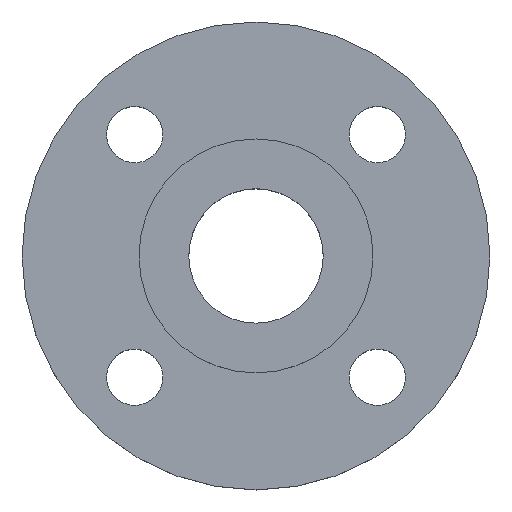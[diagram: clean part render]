
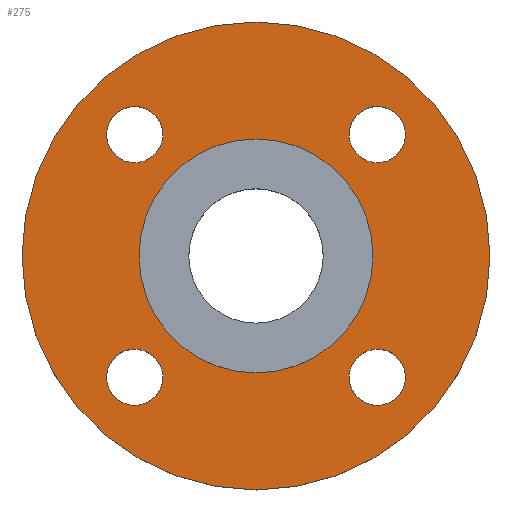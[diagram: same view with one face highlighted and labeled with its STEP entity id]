
A CAD part, top view. The second image highlights one B-rep face of the part: STEP entity #275.
In plain terms, the highlighted planar face has unit normal (0, 0, 1).
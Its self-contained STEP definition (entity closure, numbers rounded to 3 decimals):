
#2 = CIRCLE ( 'NONE', #4, 9. ) ;
#4 = AXIS2_PLACEMENT_3D ( 'NONE', #355, #268, #269 ) ;
#27 = AXIS2_PLACEMENT_3D ( 'NONE', #150, #149, #148 ) ;
#29 = AXIS2_PLACEMENT_3D ( 'NONE', #233, #210, #230 ) ;
#43 = CIRCLE ( 'NONE', #350, 9. ) ;
#46 = CIRCLE ( 'NONE', #47, 75. ) ;
#47 = AXIS2_PLACEMENT_3D ( 'NONE', #77, #78, #72 ) ;
#64 = CARTESIAN_POINT ( 'NONE',  ( 29.891, 38.891, -4.5 ) ) ;
#72 = DIRECTION ( 'NONE',  ( -1., 0., 0. ) ) ;
#77 = CARTESIAN_POINT ( 'NONE',  ( 0., 0., -4.5 ) ) ;
#78 = DIRECTION ( 'NONE',  ( 0., 0., -1. ) ) ;
#89 = DIRECTION ( 'NONE',  ( 1., 0., 0. ) ) ;
#90 = DIRECTION ( 'NONE',  ( 0., 0., -1. ) ) ;
#91 = CARTESIAN_POINT ( 'NONE',  ( 38.891, 38.891, -4.5 ) ) ;
#93 = CARTESIAN_POINT ( 'NONE',  ( -37.5, 0., -4.5 ) ) ;
#94 = CARTESIAN_POINT ( 'NONE',  ( -29.891, 38.891, -4.5 ) ) ;
#104 = CIRCLE ( 'NONE', #114, 37.5 ) ;
#114 = AXIS2_PLACEMENT_3D ( 'NONE', #774, #776, #777 ) ;
#148 = DIRECTION ( 'NONE',  ( 1., 0., 0. ) ) ;
#149 = DIRECTION ( 'NONE',  ( 0., 0., -1. ) ) ;
#150 = CARTESIAN_POINT ( 'NONE',  ( -38.891, 38.891, -4.5 ) ) ;
#151 = CARTESIAN_POINT ( 'NONE',  ( 47.891, -38.891, -4.5 ) ) ;
#167 = AXIS2_PLACEMENT_3D ( 'NONE', #760, #761, #762 ) ;
#176 = AXIS2_PLACEMENT_3D ( 'NONE', #778, #779, #780 ) ;
#188 = EDGE_CURVE ( 'NONE', #427, #444, #533, .T. ) ;
#189 = CARTESIAN_POINT ( 'NONE',  ( 29.891, -38.891, -4.5 ) ) ;
#193 = CARTESIAN_POINT ( 'NONE',  ( -47.891, 38.891, -4.5 ) ) ;
#194 = CARTESIAN_POINT ( 'NONE',  ( 75., 0., -4.5 ) ) ;
#201 = DIRECTION ( 'NONE',  ( 0., 0., -1. ) ) ;
#203 = CARTESIAN_POINT ( 'NONE',  ( -38.891, 38.891, -4.5 ) ) ;
#205 = DIRECTION ( 'NONE',  ( 1., 0., 0. ) ) ;
#210 = DIRECTION ( 'NONE',  ( 0., 0., -1. ) ) ;
#213 = DIRECTION ( 'NONE',  ( 0., 0., -1. ) ) ;
#223 = DIRECTION ( 'NONE',  ( 0., 0., -1. ) ) ;
#224 = CARTESIAN_POINT ( 'NONE',  ( 47.891, 38.891, -4.5 ) ) ;
#225 = CARTESIAN_POINT ( 'NONE',  ( -75., 0., -4.5 ) ) ;
#230 = DIRECTION ( 'NONE',  ( -1., 0., 0. ) ) ;
#233 = CARTESIAN_POINT ( 'NONE',  ( 0., 0., -4.5 ) ) ;
#235 = CARTESIAN_POINT ( 'NONE',  ( 38.891, -38.891, -4.5 ) ) ;
#242 = DIRECTION ( 'NONE',  ( 1., 0., 0. ) ) ;
#245 = CARTESIAN_POINT ( 'NONE',  ( 38.891, -38.891, -4.5 ) ) ;
#247 = CARTESIAN_POINT ( 'NONE',  ( -47.891, -38.891, -4.5 ) ) ;
#251 = CARTESIAN_POINT ( 'NONE',  ( 37.5, 0., -4.5 ) ) ;
#257 = CIRCLE ( 'NONE', #176, 9. ) ;
#259 = CIRCLE ( 'NONE', #293, 9. ) ;
#268 = DIRECTION ( 'NONE',  ( 0., 0., -1. ) ) ;
#269 = DIRECTION ( 'NONE',  ( 1., 0., 0. ) ) ;
#275 = ADVANCED_FACE ( 'NONE', ( #753, #754, #755, #756, #757, #758 ), #759, .T. ) ;
#293 = AXIS2_PLACEMENT_3D ( 'NONE', #235, #223, #373 ) ;
#297 = EDGE_CURVE ( 'NONE', #671, #430, #104, .T. ) ;
#299 = EDGE_CURVE ( 'NONE', #444, #427, #257, .T. ) ;
#314 = CIRCLE ( 'NONE', #27, 9. ) ;
#331 = CARTESIAN_POINT ( 'NONE',  ( 0., 0., -4.5 ) ) ;
#332 = DIRECTION ( 'NONE',  ( 0., 0., -1. ) ) ;
#334 = DIRECTION ( 'NONE',  ( -1., 0., 0. ) ) ;
#350 = AXIS2_PLACEMENT_3D ( 'NONE', #91, #90, #89 ) ;
#352 = CARTESIAN_POINT ( 'NONE',  ( -29.891, -38.891, -4.5 ) ) ;
#355 = CARTESIAN_POINT ( 'NONE',  ( 38.891, 38.891, -4.5 ) ) ;
#373 = DIRECTION ( 'NONE',  ( 1., 0., 0. ) ) ;
#395 = CIRCLE ( 'NONE', #29, 37.5 ) ;
#397 = AXIS2_PLACEMENT_3D ( 'NONE', #331, #332, #334 ) ;
#399 = EDGE_CURVE ( 'NONE', #516, #452, #401, .T. ) ;
#401 = CIRCLE ( 'NONE', #397, 75. ) ;
#417 = EDGE_CURVE ( 'NONE', #520, #670, #529, .T. ) ;
#422 = AXIS2_PLACEMENT_3D ( 'NONE', #245, #213, #242 ) ;
#427 = VERTEX_POINT ( 'NONE', #247 ) ;
#430 = VERTEX_POINT ( 'NONE', #251 ) ;
#431 = EDGE_CURVE ( 'NONE', #430, #671, #395, .T. ) ;
#440 = AXIS2_PLACEMENT_3D ( 'NONE', #724, #725, #726 ) ;
#441 = VERTEX_POINT ( 'NONE', #224 ) ;
#444 = VERTEX_POINT ( 'NONE', #352 ) ;
#445 = EDGE_LOOP ( 'NONE', ( #602, #603 ) ) ;
#450 = CIRCLE ( 'NONE', #422, 9. ) ;
#452 = VERTEX_POINT ( 'NONE', #225 ) ;
#455 = EDGE_CURVE ( 'NONE', #534, #634, #259, .T. ) ;
#481 = EDGE_CURVE ( 'NONE', #634, #534, #450, .T. ) ;
#496 = AXIS2_PLACEMENT_3D ( 'NONE', #203, #201, #205 ) ;
#497 = EDGE_CURVE ( 'NONE', #441, #660, #2, .T. ) ;
#515 = EDGE_LOOP ( 'NONE', ( #593, #594 ) ) ;
#516 = VERTEX_POINT ( 'NONE', #194 ) ;
#520 = VERTEX_POINT ( 'NONE', #193 ) ;
#529 = CIRCLE ( 'NONE', #496, 9. ) ;
#533 = CIRCLE ( 'NONE', #440, 9. ) ;
#534 = VERTEX_POINT ( 'NONE', #189 ) ;
#593 = ORIENTED_EDGE ( 'NONE', *, *, #481, .T. ) ;
#594 = ORIENTED_EDGE ( 'NONE', *, *, #455, .T. ) ;
#595 = ORIENTED_EDGE ( 'NONE', *, *, #299, .T. ) ;
#596 = ORIENTED_EDGE ( 'NONE', *, *, #188, .T. ) ;
#597 = ORIENTED_EDGE ( 'NONE', *, *, #635, .T. ) ;
#598 = ORIENTED_EDGE ( 'NONE', *, *, #417, .T. ) ;
#599 = ORIENTED_EDGE ( 'NONE', *, *, #497, .T. ) ;
#600 = EDGE_LOOP ( 'NONE', ( #599, #601 ) ) ;
#601 = ORIENTED_EDGE ( 'NONE', *, *, #679, .T. ) ;
#602 = ORIENTED_EDGE ( 'NONE', *, *, #297, .T. ) ;
#603 = ORIENTED_EDGE ( 'NONE', *, *, #431, .T. ) ;
#604 = ORIENTED_EDGE ( 'NONE', *, *, #399, .F. ) ;
#606 = ORIENTED_EDGE ( 'NONE', *, *, #790, .F. ) ;
#634 = VERTEX_POINT ( 'NONE', #151 ) ;
#635 = EDGE_CURVE ( 'NONE', #670, #520, #314, .T. ) ;
#640 = EDGE_LOOP ( 'NONE', ( #604, #606 ) ) ;
#647 = EDGE_LOOP ( 'NONE', ( #595, #596 ) ) ;
#660 = VERTEX_POINT ( 'NONE', #64 ) ;
#670 = VERTEX_POINT ( 'NONE', #94 ) ;
#671 = VERTEX_POINT ( 'NONE', #93 ) ;
#672 = EDGE_LOOP ( 'NONE', ( #597, #598 ) ) ;
#679 = EDGE_CURVE ( 'NONE', #660, #441, #43, .T. ) ;
#724 = CARTESIAN_POINT ( 'NONE',  ( -38.891, -38.891, -4.5 ) ) ;
#725 = DIRECTION ( 'NONE',  ( 0., 0., -1. ) ) ;
#726 = DIRECTION ( 'NONE',  ( 1., 0., 0. ) ) ;
#753 = FACE_BOUND ( 'NONE', #515, .T. ) ;
#754 = FACE_BOUND ( 'NONE', #647, .T. ) ;
#755 = FACE_BOUND ( 'NONE', #672, .T. ) ;
#756 = FACE_BOUND ( 'NONE', #600, .T. ) ;
#757 = FACE_BOUND ( 'NONE', #445, .T. ) ;
#758 = FACE_OUTER_BOUND ( 'NONE', #640, .T. ) ;
#759 = PLANE ( 'NONE',  #167 ) ;
#760 = CARTESIAN_POINT ( 'NONE',  ( 37.5, 0., -4.5 ) ) ;
#761 = DIRECTION ( 'NONE',  ( 0., 0., 1. ) ) ;
#762 = DIRECTION ( 'NONE',  ( 1., 0., 0. ) ) ;
#774 = CARTESIAN_POINT ( 'NONE',  ( 0., 0., -4.5 ) ) ;
#776 = DIRECTION ( 'NONE',  ( 0., 0., -1. ) ) ;
#777 = DIRECTION ( 'NONE',  ( -1., 0., 0. ) ) ;
#778 = CARTESIAN_POINT ( 'NONE',  ( -38.891, -38.891, -4.5 ) ) ;
#779 = DIRECTION ( 'NONE',  ( 0., 0., -1. ) ) ;
#780 = DIRECTION ( 'NONE',  ( 1., 0., 0. ) ) ;
#790 = EDGE_CURVE ( 'NONE', #452, #516, #46, .T. ) ;
